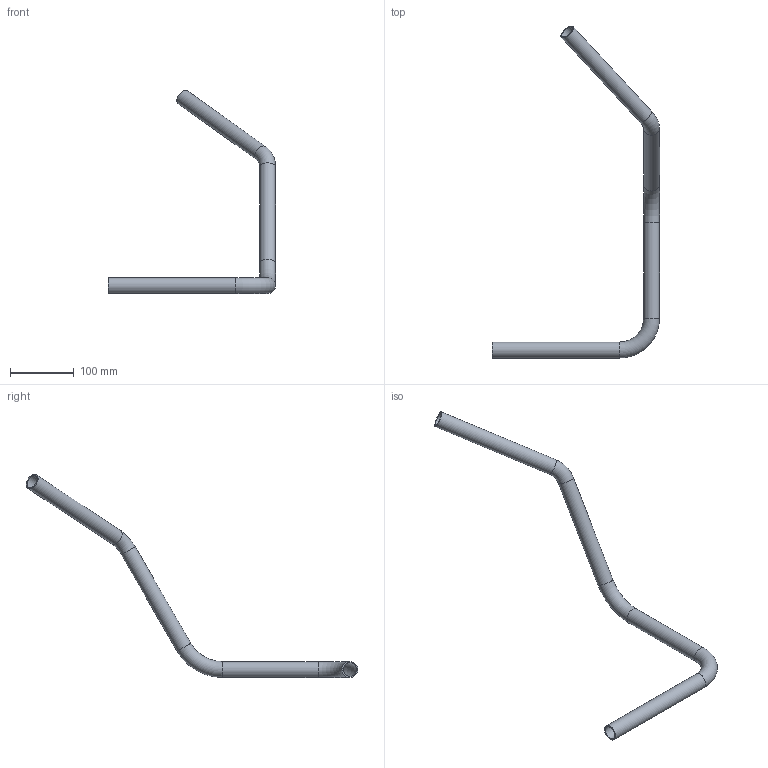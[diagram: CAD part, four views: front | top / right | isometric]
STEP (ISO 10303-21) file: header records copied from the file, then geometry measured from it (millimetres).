
FILE_DESCRIPTION(/* description */ (''),/* implementation_level */ '2;1');
FILE_NAME(/* name */ 'TP00001_R001.step',/* time_stamp */ '2026-10-05T10:20:25+07:00',/* author */ (''),/* organization */ (''),/* preprocessor_version */ 'ST-DEVELOPER v20.2',/* originating_system */ 'Autodesk Translation Framework v15.15.0.0',/* authorisation */ '');
FILE_SCHEMA (('AUTOMOTIVE_DESIGN { 1 0 10303 214 3 1 1 }'));
Length unit declared in the file: millimetre
Products named in the file (1): 2026-10-05-10-20-25-179
Bounding box: 262.5 x 521.16 x 318.99 mm (x, y, z)
Volume: 131255.6 mm3; surface area: 131544.6 mm2
Topology: 1 solids, 1 shells, 16 faces, 42 edges, 28 vertices
Faces by surface type: cylinder 8, torus 6, plane 2
Full cylindrical faces by diameter (mm): 21 x4, 25 x4
Entity records: 557 total; most frequent: DIRECTION 110, CARTESIAN_POINT 87, ORIENTED_EDGE 84, AXIS2_PLACEMENT_3D 51, EDGE_CURVE 42, CIRCLE 34, VERTEX_POINT 28, EDGE_LOOP 18
